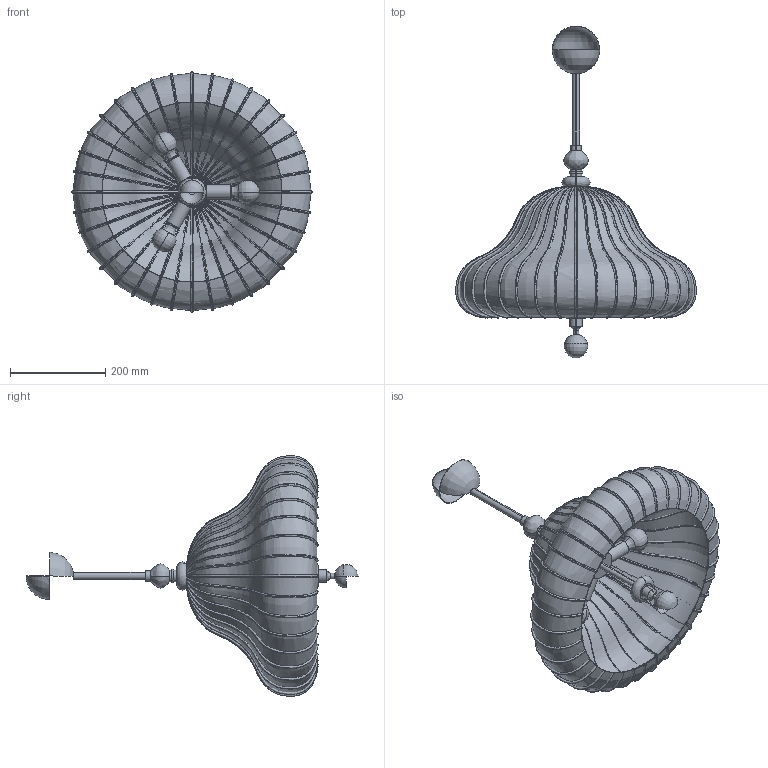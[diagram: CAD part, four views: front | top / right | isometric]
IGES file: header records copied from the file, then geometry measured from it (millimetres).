
Start section: SolidWorks IGES file using analytic representation for surfaces
Global section: file name: F:\燠隴矨\3D\2025-9\Isabella Bloom Pendant Light.IGS,15; native system: HSolidWorks 2022; preprocessor: SolidWorks 2022; author: MyPC; date: 250928.171122; units: millimetre
Bounding box: 504.85 x 696.94 x 504.85 mm (x, y, z)
Surface area: 1267044.3 mm2 (no closed solid volume)
Topology: 0 solids, 0 shells, 255 faces, 4284 edges, 4272 vertices
Faces by surface type: bspline 193, revolution 62
